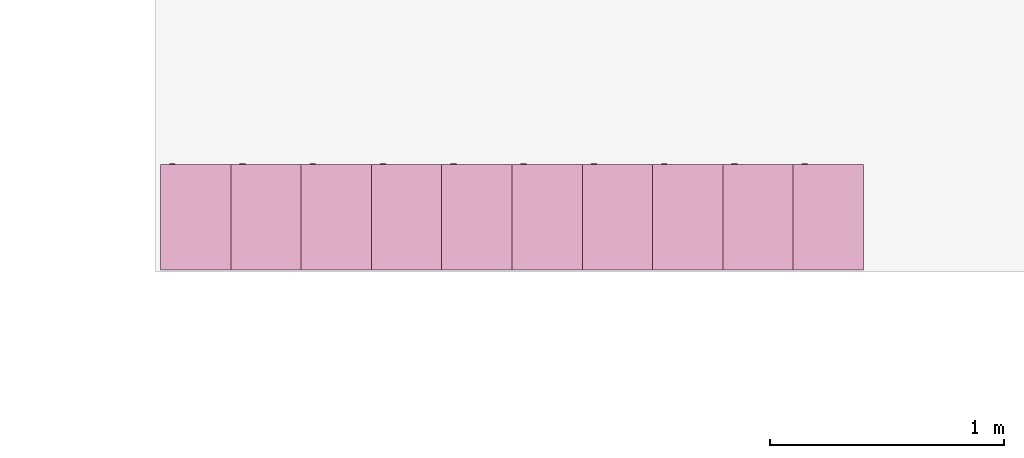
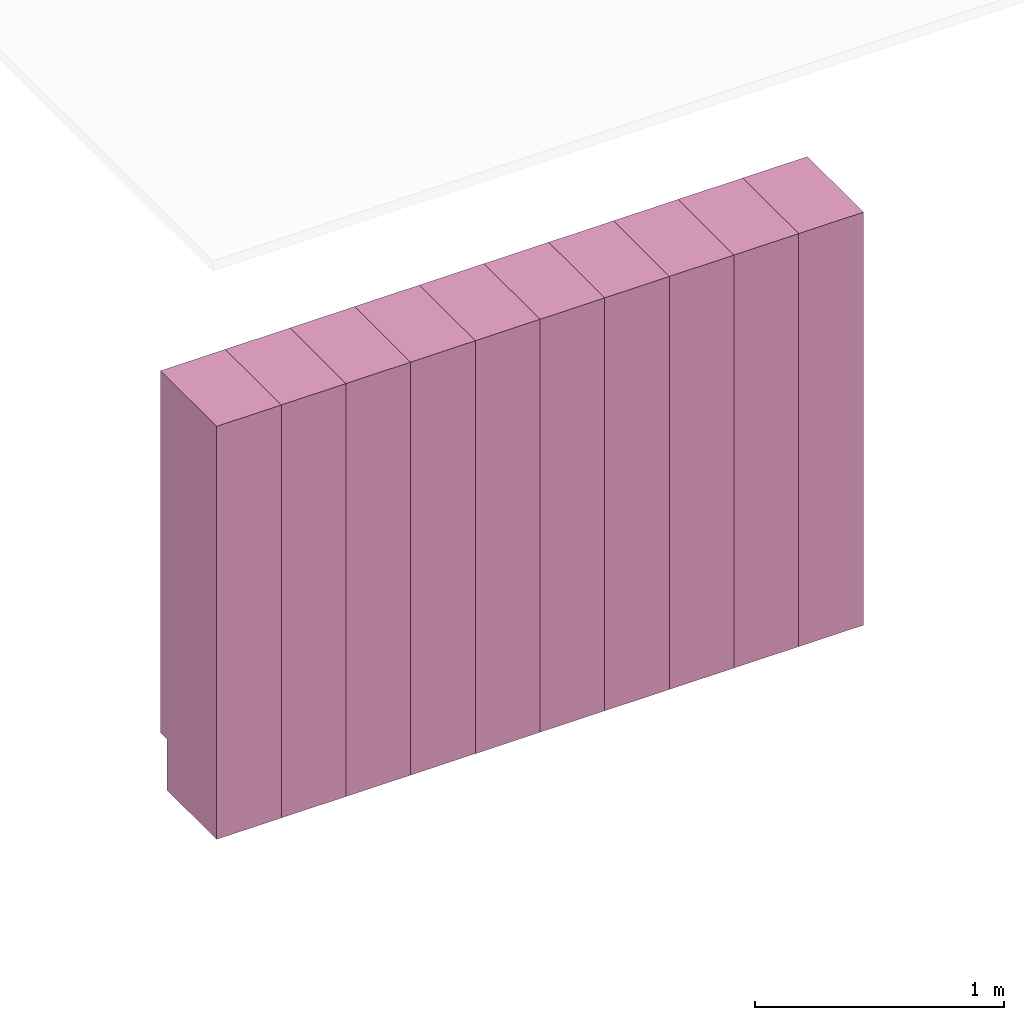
# One storey, part 3 of 4: 10 furnishings.
"""IFC2X3 building model written with IfcOpenShell, lengths in centimetres."""

import ifcopenshell
import ifcopenshell.guid

model = None  # the IFC model being written
_history = None  # IfcOwnerHistory: only IFC2X3 demands one
_inside = {}  # id of a spatial element -> (the spatial element, [elements in it])
_under = {}  # id of a project, library or spatial element -> (it, [spatial elements below it])
_declared = {}  # id of a project -> (the project, [libraries it declares])
_typed = {}  # id of a type object -> (the type object, [elements of that type])
_made_of = {}  # id of a material, layer set ... -> (it, [elements and type objects made of it])


def new_model(schema):
    """Start an empty IFC model of exactly this schema.

    Asked for "IFC4X3", IfcOpenShell would pick the latest addendum, in which some entities
    have other attributes; the version numbers below select the first issue.
    IFC2X3 requires an IfcOwnerHistory on every rooted entity: one is made here for all.
    """
    global model, _history
    if schema == "IFC4X3":
        model = ifcopenshell.file(schema_version=(4, 3, 0, 0))
    else:
        model = ifcopenshell.file(schema=schema)
    _inside.clear()
    _under.clear()
    _declared.clear()
    _typed.clear()
    _made_of.clear()
    _history = None
    if model.schema == "IFC2X3":
        org = make("IfcOrganization", Name="unknown")
        user = make(
            "IfcPersonAndOrganization",
            ThePerson=make("IfcPerson", FamilyName="unknown"),
            TheOrganization=org,
        )
        app = make(
            "IfcApplication",
            ApplicationDeveloper=org,
            Version="unknown",
            ApplicationFullName="unknown",
            ApplicationIdentifier="unknown",
        )
        _history = make(
            "IfcOwnerHistory",
            OwningUser=user,
            OwningApplication=app,
            ChangeAction="ADDED",
            CreationDate=0,
        )
    return model


def make(cls, **values):
    """One entity of the class cls with the attributes given. An attribute that is None is left unset."""
    return model.create_entity(
        cls, **{name: value for name, value in values.items() if value is not None}
    )


def entity(cls, *values):
    """Any entity or typed value of the class cls, its attributes in the order of the schema. None: left unset."""
    e = model.create_entity(cls)
    for i, value in enumerate(values):
        if value is not None:
            e[i] = value
    return e


def rooted(cls, **values):
    """An entity with a GlobalId (a new one), such as an element, a storey or a relation."""
    return make(cls, GlobalId=ifcopenshell.guid.new(), OwnerHistory=_history, **values)


def si_unit(unit_type, name, prefix=None):
    """IfcSIUnit, for example si_unit("LENGTHUNIT", "METRE", prefix="MILLI")."""
    return make("IfcSIUnit", UnitType=unit_type, Prefix=prefix, Name=name)


def converted_unit(unit_type, name, factor, base, dimensions=None, offset=None):
    """IfcConversionBasedUnit, such as the inch: factor (a typed value) times the base unit."""
    return make(
        "IfcConversionBasedUnit"
        if offset is None
        else "IfcConversionBasedUnitWithOffset",
        ConversionOffset=offset,
        Dimensions=None
        if dimensions is None
        else entity("IfcDimensionalExponents", *dimensions),
        UnitType=unit_type,
        Name=name,
        ConversionFactor=make(
            "IfcMeasureWithUnit", ValueComponent=factor, UnitComponent=base
        ),
    )


def derived_unit(unit_type, elements):
    """IfcDerivedUnit: a product of units, each with its exponent."""
    return make(
        "IfcDerivedUnit",
        Elements=[
            make("IfcDerivedUnitElement", Unit=unit, Exponent=power)
            for unit, power in elements
        ],
        UnitType=unit_type,
    )


def assignment(units):
    """IfcUnitAssignment: the units of a project."""
    return None if units is None else make("IfcUnitAssignment", Units=units)


def point(xyz):
    """IfcCartesianPoint."""
    return None if xyz is None else make("IfcCartesianPoint", Coordinates=xyz)


def direction(xyz):
    """IfcDirection."""
    return None if xyz is None else make("IfcDirection", DirectionRatios=xyz)


def frame(location, z_axis=None, x_axis=None):
    """IfcAxis2Placement3D, a coordinate frame: its origin and axes. An axis left out is left unset."""
    return make(
        "IfcAxis2Placement3D",
        Location=point(location),
        Axis=direction(z_axis),
        RefDirection=direction(x_axis),
    )


def origin():
    """The frame at (0, 0, 0) with its axes left unset."""
    return frame((0.0, 0.0, 0.0))


def place(relative_to, where):
    """IfcLocalPlacement: puts the frame where relative to a parent placement (None: the world)."""
    return make(
        "IfcLocalPlacement", PlacementRelTo=relative_to, RelativePlacement=where
    )


def context(
    kind, dimensions, precision=None, world=None, true_north=None, identifier=None
):
    """IfcGeometricRepresentationContext, for example the 3D "Model" context."""
    return make(
        "IfcGeometricRepresentationContext",
        ContextIdentifier=identifier,
        ContextType=kind,
        CoordinateSpaceDimension=dimensions,
        Precision=precision,
        WorldCoordinateSystem=world,
        TrueNorth=true_north,
    )


def subcontext(parent, identifier, kind, view, scale=None):
    """IfcGeometricRepresentationSubContext, for example "Body" below "Model"."""
    return make(
        "IfcGeometricRepresentationSubContext",
        ContextIdentifier=identifier,
        ContextType=kind,
        ParentContext=parent,
        TargetScale=scale,
        TargetView=view,
    )


def project(units=None, contexts=None):
    """IfcProject with its units and contexts."""
    return rooted(
        "IfcProject",
        Name="project",
        RepresentationContexts=contexts,
        UnitsInContext=assignment(units),
    )


def spatial(cls, under=None, at=None, **own):
    """A site, building, storey or space (cls), placed at a placement, below another one or the project."""
    s = rooted(cls, ObjectPlacement=at, **own)
    if under is not None:
        _under.setdefault(under.id(), (under, []))[1].append(s)
    return s


def faces_of(points, faces, orient=None, outer=None):
    """IfcFace entities. A face is a list of loops; a loop is a list of indices into points, from 0.

    orient and outer hold one flag for each loop. By default every Orientation is true, the
    first loop of a face is its IfcFaceOuterBound and the others are IfcFaceBound.
    """
    made = []
    for i, loops in enumerate(faces):
        bounds = []
        for j, loop in enumerate(loops):
            is_outer = j == 0 if outer is None else outer[i][j]
            bounds.append(
                make(
                    "IfcFaceOuterBound" if is_outer else "IfcFaceBound",
                    Bound=make("IfcPolyLoop", Polygon=[points[k] for k in loop]),
                    Orientation=True if orient is None else orient[i][j],
                )
            )
        made.append(make("IfcFace", Bounds=bounds))
    return made


def faceted_brep(points, faces, orient=None, outer=None, voids=None):
    """IfcFacetedBrep: a solid bounded by flat faces; with voids (closed shells), ...WithVoids."""
    shared = [point(p) for p in points]
    hull = make("IfcClosedShell", CfsFaces=faces_of(shared, faces, orient, outer))
    if voids is None:
        return make("IfcFacetedBrep", Outer=hull)
    return make(
        "IfcFacetedBrepWithVoids",
        Outer=hull,
        Voids=[
            make(cls, CfsFaces=faces_of(shared, fs, o, b)) for cls, fs, o, b in voids
        ],
    )


def shape(context_of_items, identifier, shape_type, items):
    """IfcShapeRepresentation: the items that make up one representation, for example the "Body"."""
    return make(
        "IfcShapeRepresentation",
        ContextOfItems=context_of_items,
        RepresentationIdentifier=identifier,
        RepresentationType=shape_type,
        Items=items,
    )


def source(mapping_origin, context_of_items, identifier, shape_type, items):
    """IfcRepresentationMap: a shape defined once, which mapped items show again and again."""
    return make(
        "IfcRepresentationMap",
        MappingOrigin=mapping_origin,
        MappedRepresentation=shape(context_of_items, identifier, shape_type, items),
    )


def transform(
    local_origin,
    x_axis=None,
    y_axis=None,
    z_axis=None,
    scale=None,
    scale2=None,
    scale3=None,
    uniform=True,
):
    """IfcCartesianTransformationOperator3D, or its non-uniform kind. x_axis, y_axis, z_axis: its Axis1, 2, 3."""
    if uniform:
        return make(
            "IfcCartesianTransformationOperator3D",
            Axis1=direction(x_axis),
            Axis2=direction(y_axis),
            LocalOrigin=point(local_origin),
            Scale=scale,
            Axis3=direction(z_axis),
        )
    return make(
        "IfcCartesianTransformationOperator3DnonUniform",
        Axis1=direction(x_axis),
        Axis2=direction(y_axis),
        LocalOrigin=point(local_origin),
        Scale=scale,
        Axis3=direction(z_axis),
        Scale2=scale2,
        Scale3=scale3,
    )


def mapped(mapping_source, mapping_target):
    """IfcMappedItem: shows the shape of a source again, moved by a transform."""
    return make(
        "IfcMappedItem", MappingSource=mapping_source, MappingTarget=mapping_target
    )


def material(Name=None, Category=None):
    """IfcMaterial."""
    return make("IfcMaterial", Name=Name, Category=Category)


def material_list(materials):
    """IfcMaterialList."""
    return make("IfcMaterialList", Materials=materials)


def made_of(thing, what):
    """Note that an element or type object is made of a material, layer set ...; save() writes the relation."""
    if what is not None:
        _made_of.setdefault(what.id(), (what, []))[1].append(thing)
    return thing


def type_object(cls, material=None, **own):
    """A type object (cls), such as IfcWallType, which elements share."""
    return made_of(rooted(cls, **own), material)


def type_shapes(of_type, sources):
    """Give a type object the sources (RepresentationMaps) that its elements show as mapped items."""
    of_type.RepresentationMaps = sources


def element(
    cls,
    number,
    at=None,
    inside=None,
    cuts=None,
    type_object=None,
    material=None,
    context=None,
    identifier="Body",
    shape_type=None,
    held_by="IfcProductDefinitionShape",
    body=None,
    shapes=None,
    **own,
):
    """One element of the class cls, such as IfcWall. Its Tag is "e" and its number.

    at: its placement. inside: the storey or other place that contains it. cuts: it is an
    opening in that element (IfcRelVoidsElement). A single representation is given by context,
    identifier, shape_type and body (its items); several are given by shapes. held_by: the class
    of the entity that holds the representations. save() writes the other relations.
    """
    e = rooted(cls, Tag="e%d" % number, ObjectPlacement=at, **own)
    if body is not None:
        shapes = [shape(context, identifier, shape_type, body)]
    if shapes is not None:
        e.Representation = make(held_by, Representations=shapes)
    if inside is not None:
        _inside.setdefault(inside.id(), (inside, []))[1].append(e)
    if cuts is not None:
        rooted(
            "IfcRelVoidsElement", RelatingBuildingElement=cuts, RelatedOpeningElement=e
        )
    if type_object is not None:
        _typed.setdefault(type_object.id(), (type_object, []))[1].append(e)
    return made_of(e, material)


def aggregate(whole, parts):
    """IfcRelAggregates: a whole, such as a stair, and the parts it consists of."""
    return rooted("IfcRelAggregates", RelatingObject=whole, RelatedObjects=parts)


def save(model, path):
    """Write the relations noted so far, then the file.

    IfcRelAggregates (storeys below a building ...), IfcRelContainedInSpatialStructure (elements
    in a storey), IfcRelDefinesByType, IfcRelAssociatesMaterial and IfcRelDeclares: one each for
    every whole, place, type object, material and project.
    """
    for whole, parts in _under.values():
        aggregate(whole, parts)
    for where, things in _inside.values():
        rooted(
            "IfcRelContainedInSpatialStructure",
            RelatedElements=things,
            RelatingStructure=where,
        )
    for kind, things in _typed.values():
        rooted("IfcRelDefinesByType", RelatedObjects=things, RelatingType=kind)
    for what, things in _made_of.values():
        rooted("IfcRelAssociatesMaterial", RelatedObjects=things, RelatingMaterial=what)
    for by, libraries in _declared.values():
        rooted("IfcRelDeclares", RelatingContext=by, RelatedDefinitions=libraries)
    model.write(path)


model = new_model("IFC2X3")

# Units and contexts
model_context = context("Model", 3, precision=0.001, world=origin(), true_north=direction((6.12303176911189e-17, 1.0)))
body_context = subcontext(model_context, "Body", "Model", "MODEL_VIEW")
ifc_project = project(units=[si_unit("LENGTHUNIT", "METRE", prefix="CENTI"), si_unit("AREAUNIT", "SQUARE_METRE"), si_unit("VOLUMEUNIT", "CUBIC_METRE"), converted_unit("PLANEANGLEUNIT", "DEGREE", entity("IfcRatioMeasure", 0.0174532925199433), si_unit("PLANEANGLEUNIT", "RADIAN"), dimensions=[0, 0, 0, 0, 0, 0, 0]), si_unit("MASSUNIT", "GRAM", prefix="KILO"), si_unit("TIMEUNIT", "SECOND"), si_unit("FREQUENCYUNIT", "HERTZ"), si_unit("THERMODYNAMICTEMPERATUREUNIT", "DEGREE_CELSIUS"), derived_unit("THERMALTRANSMITTANCEUNIT", [(si_unit("MASSUNIT", "GRAM", prefix="KILO"), 1), (si_unit("THERMODYNAMICTEMPERATUREUNIT", "KELVIN"), -1), (si_unit("TIMEUNIT", "SECOND"), -3)]), derived_unit("VOLUMETRICFLOWRATEUNIT", [(si_unit("LENGTHUNIT", "METRE"), 3), (si_unit("TIMEUNIT", "SECOND"), -1)]), si_unit("ELECTRICCURRENTUNIT", "AMPERE"), si_unit("ELECTRICVOLTAGEUNIT", "VOLT"), si_unit("POWERUNIT", "WATT"), si_unit("FORCEUNIT", "NEWTON", prefix="KILO"), si_unit("ILLUMINANCEUNIT", "LUX"), si_unit("LUMINOUSFLUXUNIT", "LUMEN"), si_unit("LUMINOUSINTENSITYUNIT", "CANDELA"), derived_unit("USERDEFINED", [(si_unit("MASSUNIT", "GRAM", prefix="KILO"), -1), (si_unit("LENGTHUNIT", "METRE"), -2), (si_unit("TIMEUNIT", "SECOND"), 3), (si_unit("LUMINOUSFLUXUNIT", "LUMEN"), 1)]), derived_unit("LINEARVELOCITYUNIT", [(si_unit("LENGTHUNIT", "METRE"), 1), (si_unit("TIMEUNIT", "SECOND"), -1)]), si_unit("PRESSUREUNIT", "PASCAL"), derived_unit("USERDEFINED", [(si_unit("LENGTHUNIT", "METRE"), -2), (si_unit("MASSUNIT", "GRAM", prefix="KILO"), 1), (si_unit("TIMEUNIT", "SECOND"), -2)])], contexts=[model_context])

# Site, building, storey, space
site_placement = place(None, frame((8.62739174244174, -249.285249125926, 0.0)))
site = spatial("IfcSite", under=ifc_project, at=site_placement, Name="Default", CompositionType="ELEMENT")
building_placement = place(site_placement, origin())
building = spatial("IfcBuilding", under=site, at=building_placement, CompositionType="ELEMENT")
storey_placement = place(building_placement, frame((0.0, 0.0, 30.0)))
storey = spatial("IfcBuildingStorey", under=building, at=storey_placement, Name="vestiaires", CompositionType="ELEMENT", Elevation=30.0)
space_placement = place(storey_placement, origin())
space = spatial("IfcSpace", under=storey, at=space_placement, Name="110", CompositionType="ELEMENT", InteriorOrExteriorSpace="INTERNAL")

# Furnishings
ifc_material_1 = material(Name="Peinture - Grise")
ifc_material_2 = material(Name="Peinture - Blanc")
ifc_material_list_1 = material_list([ifc_material_1, ifc_material_2])
ifc_material_list_2 = material_list([ifc_material_1, ifc_material_2])
furniture_type = type_object("IfcFurnitureType", Name="Casiers 1x2", AssemblyPlace="NOTDEFINED", material=ifc_material_list_2)
shared_shape = source(origin(), body_context, "Body", "Brep", [
    faceted_brep([(5.28593426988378, 45.0, 70.5824072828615), (4.96241046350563, 45.0, 70.6250000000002), (4.63888665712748, 45.0, 70.5824072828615), (4.33741046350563, 45.0, 70.4575317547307), (4.07852698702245, 45.0, 70.2588834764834), (3.87987870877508, 45.0, 70.0), (3.75500318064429, 45.0, 69.6985238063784), (3.71241046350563, 45.0, 69.3750000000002), (3.75500318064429, 45.0, 69.0514761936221), (3.87987870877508, 45.0, 68.7500000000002), (4.07852698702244, 45.0, 68.491116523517), (4.33741046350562, 45.0, 68.2924682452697), (4.63888665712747, 45.0, 68.1675927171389), (4.96241046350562, 45.0, 68.1250000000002), (5.28593426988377, 45.0, 68.1675927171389), (5.58741046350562, 45.0, 68.2924682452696), (5.84629393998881, 45.0, 68.491116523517), (6.04494221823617, 45.0, 68.7500000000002), (6.16981774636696, 45.0, 69.051476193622), (6.21241046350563, 45.0, 69.3750000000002), (6.16981774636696, 45.0, 69.6985238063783), (6.04494221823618, 45.0, 70.0), (5.84629393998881, 45.0, 70.2588834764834), (5.58741046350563, 45.0, 70.4575317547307), (5.84629393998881, 45.3000000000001, 68.491116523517), (5.58741046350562, 45.3000000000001, 68.2924682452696), (5.28593426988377, 45.3000000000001, 68.1675927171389), (4.96241046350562, 45.3000000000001, 68.1250000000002), (4.63888665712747, 45.3000000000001, 68.1675927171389), (4.33741046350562, 45.3000000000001, 68.2924682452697), (4.07852698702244, 45.3000000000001, 68.491116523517), (3.87987870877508, 45.3000000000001, 68.7500000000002), (3.75500318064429, 45.3000000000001, 69.0514761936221), (3.71241046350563, 45.3000000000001, 69.3750000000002), (3.75500318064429, 45.3000000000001, 69.6985238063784), (3.87987870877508, 45.3000000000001, 70.0), (4.07852698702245, 45.3000000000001, 70.2588834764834), (4.33741046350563, 45.3000000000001, 70.4575317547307), (4.63888665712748, 45.3000000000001, 70.5824072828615), (4.96241046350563, 45.3000000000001, 70.6250000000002), (5.28593426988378, 45.3000000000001, 70.5824072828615), (5.58741046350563, 45.3000000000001, 70.4575317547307), (5.84629393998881, 45.3000000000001, 70.2588834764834), (6.04494221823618, 45.3000000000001, 70.0), (6.16981774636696, 45.3000000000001, 69.6985238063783), (6.21241046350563, 45.3000000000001, 69.3750000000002), (6.16981774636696, 45.3000000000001, 69.051476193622), (6.04494221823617, 45.3000000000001, 68.7500000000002)], [[[0, 1, 2, 3, 4, 5, 6, 7, 8, 9, 10, 11, 12, 13, 14, 15, 16, 17, 18, 19, 20, 21, 22, 23]], [[24, 25, 26, 27, 28, 29, 30, 31, 32, 33, 34, 35, 36, 37, 38, 39, 40, 41, 42, 43, 44, 45, 46, 47]], [[7, 33, 32, 8]], [[8, 32, 31, 9]], [[11, 10, 30, 29]], [[30, 10, 9, 31]], [[12, 11, 29, 28]], [[12, 28, 27, 13]], [[13, 27, 26, 14]], [[14, 26, 25, 15]], [[17, 16, 24, 47]], [[24, 16, 15, 25]], [[18, 17, 47, 46]], [[18, 46, 45, 19]], [[19, 45, 44, 20]], [[20, 44, 43, 21]], [[23, 22, 42, 41]], [[42, 22, 21, 43]], [[0, 23, 41, 40]], [[0, 40, 39, 1]], [[1, 39, 38, 2]], [[2, 38, 37, 3]], [[5, 4, 36, 35]], [[36, 4, 3, 37]], [[6, 5, 35, 34]], [[6, 34, 33, 7]]]),
    faceted_brep([(5.28593426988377, 45.3000000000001, 156.917592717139), (4.96241046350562, 45.3000000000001, 156.875), (4.63888665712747, 45.3000000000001, 156.917592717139), (4.33741046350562, 45.3000000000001, 157.042468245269), (4.07852698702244, 45.3000000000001, 157.241116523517), (3.87987870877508, 45.3000000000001, 157.5), (3.75500318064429, 45.3000000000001, 157.801476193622), (3.71241046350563, 45.3000000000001, 158.125), (3.75500318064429, 45.3000000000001, 158.448523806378), (3.87987870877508, 45.3000000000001, 158.75), (4.07852698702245, 45.3000000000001, 159.008883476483), (4.33741046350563, 45.3000000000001, 159.207531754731), (4.63888665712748, 45.3000000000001, 159.332407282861), (4.96241046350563, 45.3000000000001, 159.375), (5.28593426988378, 45.3000000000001, 159.332407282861), (5.58741046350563, 45.3000000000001, 159.207531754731), (5.84629393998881, 45.3000000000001, 159.008883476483), (6.04494221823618, 45.3000000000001, 158.75), (6.16981774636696, 45.3000000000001, 158.448523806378), (6.21241046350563, 45.3000000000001, 158.125), (6.16981774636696, 45.3000000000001, 157.801476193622), (6.04494221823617, 45.3000000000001, 157.5), (5.84629393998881, 45.3000000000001, 157.241116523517), (5.58741046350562, 45.3000000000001, 157.042468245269), (5.28593426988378, 45.0, 159.332407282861), (4.96241046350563, 45.0, 159.375), (4.63888665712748, 45.0, 159.332407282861), (4.33741046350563, 45.0, 159.207531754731), (4.07852698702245, 45.0, 159.008883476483), (3.87987870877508, 45.0, 158.75), (3.75500318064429, 45.0, 158.448523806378), (3.71241046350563, 45.0, 158.125), (3.75500318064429, 45.0, 157.801476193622), (3.87987870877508, 45.0, 157.5), (4.07852698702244, 45.0, 157.241116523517), (4.33741046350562, 45.0, 157.042468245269), (4.63888665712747, 45.0, 156.917592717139), (4.96241046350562, 45.0, 156.875), (5.28593426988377, 45.0, 156.917592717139), (5.58741046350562, 45.0, 157.042468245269), (5.84629393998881, 45.0, 157.241116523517), (6.04494221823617, 45.0, 157.5), (6.16981774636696, 45.0, 157.801476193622), (6.21241046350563, 45.0, 158.125), (6.16981774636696, 45.0, 158.448523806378), (6.04494221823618, 45.0, 158.75), (5.84629393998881, 45.0, 159.008883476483), (5.58741046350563, 45.0, 159.207531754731)], [[[0, 1, 2, 3, 4, 5, 6, 7, 8, 9, 10, 11, 12, 13, 14, 15, 16, 17, 18, 19, 20, 21, 22, 23]], [[24, 25, 26, 27, 28, 29, 30, 31, 32, 33, 34, 35, 36, 37, 38, 39, 40, 41, 42, 43, 44, 45, 46, 47]], [[31, 7, 6, 32]], [[32, 6, 5, 33]], [[35, 34, 4, 3]], [[4, 34, 33, 5]], [[36, 35, 3, 2]], [[36, 2, 1, 37]], [[37, 1, 0, 38]], [[38, 0, 23, 39]], [[41, 40, 22, 21]], [[22, 40, 39, 23]], [[42, 41, 21, 20]], [[42, 20, 19, 43]], [[43, 19, 18, 44]], [[44, 18, 17, 45]], [[47, 46, 16, 15]], [[16, 46, 45, 17]], [[24, 47, 15, 14]], [[24, 14, 13, 25]], [[25, 13, 12, 26]], [[26, 12, 11, 27]], [[29, 28, 10, 9]], [[10, 28, 27, 11]], [[30, 29, 9, 8]], [[30, 8, 7, 31]]]),
    faceted_brep([(30.0, 0.0, 25.0), (30.0, 40.0, 25.0), (0.0, 40.0, 25.0), (0.0, 0.0, 25.0), (30.0, 0.0, 0.0), (0.0, 0.0, 0.0), (0.0, 40.0, 0.0), (30.0, 40.0, 0.0)], [[[0, 1, 2, 3]], [[4, 5, 6, 7]], [[3, 5, 4, 0]], [[2, 6, 5, 3]], [[1, 7, 6, 2]], [[0, 4, 7, 1]]]),
    faceted_brep([(28.1999999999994, 45.0, 200.7), (28.1999999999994, 45.0, 115.55), (1.79999999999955, 45.0, 115.55), (1.79999999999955, 45.0, 200.7), (28.1999999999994, 43.5000000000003, 200.7), (1.79999999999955, 43.5000000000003, 200.7), (1.79999999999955, 43.5000000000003, 115.55), (28.1999999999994, 43.5000000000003, 115.55)], [[[0, 1, 2, 3]], [[4, 5, 6, 7]], [[3, 5, 4, 0]], [[2, 6, 5, 3]], [[1, 7, 6, 2]], [[0, 4, 7, 1]]]),
    faceted_brep([(1.79999999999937, 45.0, 111.95), (1.79999999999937, 43.5000000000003, 111.95), (28.1999999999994, 43.5000000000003, 111.95), (28.1999999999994, 45.0, 111.95), (1.79999999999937, 45.0, 26.8000000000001), (1.79999999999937, 43.5000000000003, 26.8000000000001), (28.1999999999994, 45.0, 26.8000000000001), (28.1999999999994, 43.5000000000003, 26.8000000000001)], [[[0, 1, 2, 3]], [[4, 5, 1, 0]], [[6, 7, 5, 4]], [[3, 2, 7, 6]], [[2, 1, 5, 7]], [[3, 6, 4, 0]]]),
    faceted_brep([(30.0, 45.0, 25.0), (30.0, 45.0, 202.5), (30.0, 0.0, 202.5), (30.0, 0.0, 25.0), (0.0, 45.0, 25.0), (0.0, 0.0, 25.0), (0.0, 0.0, 202.5), (0.0, 45.0, 202.5), (28.4999999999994, 45.0, 26.5), (28.4999999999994, 45.0, 112.25), (1.49999999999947, 45.0, 112.25), (1.49999999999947, 45.0, 26.5), (28.4999999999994, 45.0, 115.25), (28.4999999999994, 45.0, 201.0), (1.49999999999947, 45.0, 201.0), (1.49999999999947, 45.0, 115.25), (28.4999999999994, 1.50000000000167, 26.5), (1.49999999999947, 1.50000000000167, 26.5), (1.49999999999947, 1.50000000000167, 112.25), (28.4999999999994, 1.50000000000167, 112.25), (28.4999999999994, 1.50000000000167, 115.25), (1.49999999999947, 1.50000000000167, 115.25), (1.49999999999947, 1.50000000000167, 201.0), (28.4999999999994, 1.50000000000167, 201.0)], [[[0, 1, 2, 3]], [[4, 5, 6, 7]], [[3, 5, 4, 0]], [[2, 6, 5, 3]], [[1, 7, 6, 2]], [[0, 4, 7, 1], [8, 9, 10, 11], [12, 13, 14, 15]], [[16, 17, 18, 19]], [[16, 8, 11, 17]], [[17, 11, 10, 18]], [[18, 10, 9, 19]], [[19, 9, 8, 16]], [[20, 12, 15, 21]], [[21, 15, 14, 22]], [[22, 14, 13, 23]], [[23, 13, 12, 20]], [[20, 21, 22, 23]]]),
])
type_shapes(furniture_type, [shared_shape])
furnishing_1_placement = place(space_placement, frame((1308.90482780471, 1497.48020806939, -30.0)))
element("IfcFurnishingElement", 1, at=furnishing_1_placement, inside=space, type_object=furniture_type, material=ifc_material_list_1, Name="Casiers 1x2:Casiers 1x2", ObjectType="Casiers 1x2", context=body_context, shape_type="MappedRepresentation", body=[
    mapped(shared_shape, transform((0.0, 0.0, 0.0), scale=1.0)),
])
ifc_material_list_3 = material_list([ifc_material_1, ifc_material_2])
furnishing_2_placement = place(space_placement, frame((1278.90482780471, 1497.48020806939, -30.0)))
element("IfcFurnishingElement", 2, at=furnishing_2_placement, inside=space, type_object=furniture_type, material=ifc_material_list_3, Name="Casiers 1x2:Casiers 1x2", ObjectType="Casiers 1x2", context=body_context, shape_type="MappedRepresentation", body=[
    mapped(shared_shape, transform((0.0, 0.0, 0.0), scale=1.0)),
])
ifc_material_list_4 = material_list([ifc_material_1, ifc_material_2])
furnishing_3_placement = place(space_placement, frame((1248.90482780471, 1497.48020806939, -30.0)))
element("IfcFurnishingElement", 3, at=furnishing_3_placement, inside=space, type_object=furniture_type, material=ifc_material_list_4, Name="Casiers 1x2:Casiers 1x2", ObjectType="Casiers 1x2", context=body_context, shape_type="MappedRepresentation", body=[
    mapped(shared_shape, transform((0.0, 0.0, 0.0), scale=1.0)),
])
ifc_material_list_5 = material_list([ifc_material_1, ifc_material_2])
furnishing_4_placement = place(space_placement, frame((1218.90482780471, 1497.48020806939, -30.0)))
element("IfcFurnishingElement", 4, at=furnishing_4_placement, inside=space, type_object=furniture_type, material=ifc_material_list_5, Name="Casiers 1x2:Casiers 1x2", ObjectType="Casiers 1x2", context=body_context, shape_type="MappedRepresentation", body=[
    mapped(shared_shape, transform((0.0, 0.0, 0.0), scale=1.0)),
])
ifc_material_list_6 = material_list([ifc_material_1, ifc_material_2])
furnishing_5_placement = place(space_placement, frame((1188.90482780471, 1497.48020806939, -30.0)))
element("IfcFurnishingElement", 5, at=furnishing_5_placement, inside=space, type_object=furniture_type, material=ifc_material_list_6, Name="Casiers 1x2:Casiers 1x2", ObjectType="Casiers 1x2", context=body_context, shape_type="MappedRepresentation", body=[
    mapped(shared_shape, transform((0.0, 0.0, 0.0), scale=1.0)),
])
ifc_material_list_7 = material_list([ifc_material_1, ifc_material_2])
furnishing_6_placement = place(space_placement, frame((1158.90482780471, 1497.48020806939, -30.0)))
element("IfcFurnishingElement", 6, at=furnishing_6_placement, inside=space, type_object=furniture_type, material=ifc_material_list_7, Name="Casiers 1x2:Casiers 1x2", ObjectType="Casiers 1x2", context=body_context, shape_type="MappedRepresentation", body=[
    mapped(shared_shape, transform((0.0, 0.0, 0.0), scale=1.0)),
])
ifc_material_list_8 = material_list([ifc_material_1, ifc_material_2])
furnishing_7_placement = place(space_placement, frame((1128.90482780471, 1497.48020806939, -30.0)))
element("IfcFurnishingElement", 7, at=furnishing_7_placement, inside=space, type_object=furniture_type, material=ifc_material_list_8, Name="Casiers 1x2:Casiers 1x2", ObjectType="Casiers 1x2", context=body_context, shape_type="MappedRepresentation", body=[
    mapped(shared_shape, transform((0.0, 0.0, 0.0), scale=1.0)),
])
ifc_material_list_9 = material_list([ifc_material_1, ifc_material_2])
furnishing_8_placement = place(space_placement, frame((1098.90482780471, 1497.48020806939, -30.0)))
element("IfcFurnishingElement", 8, at=furnishing_8_placement, inside=space, type_object=furniture_type, material=ifc_material_list_9, Name="Casiers 1x2:Casiers 1x2", ObjectType="Casiers 1x2", context=body_context, shape_type="MappedRepresentation", body=[
    mapped(shared_shape, transform((0.0, 0.0, 0.0), scale=1.0)),
])
ifc_material_list_10 = material_list([ifc_material_1, ifc_material_2])
furnishing_9_placement = place(space_placement, frame((1068.90482780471, 1497.48020806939, -30.0)))
element("IfcFurnishingElement", 9, at=furnishing_9_placement, inside=space, type_object=furniture_type, material=ifc_material_list_10, Name="Casiers 1x2:Casiers 1x2", ObjectType="Casiers 1x2", context=body_context, shape_type="MappedRepresentation", body=[
    mapped(shared_shape, transform((0.0, 0.0, 0.0), scale=1.0)),
])
ifc_material_list_11 = material_list([ifc_material_1, ifc_material_2])
furnishing_10_placement = place(space_placement, frame((1038.90482780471, 1497.48020806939, -30.0)))
element("IfcFurnishingElement", 10, at=furnishing_10_placement, inside=space, type_object=furniture_type, material=ifc_material_list_11, Name="Casiers 1x2:Casiers 1x2", ObjectType="Casiers 1x2", context=body_context, shape_type="MappedRepresentation", body=[
    mapped(shared_shape, transform((0.0, 0.0, 0.0), scale=1.0)),
])

save(model, "model.ifc")
